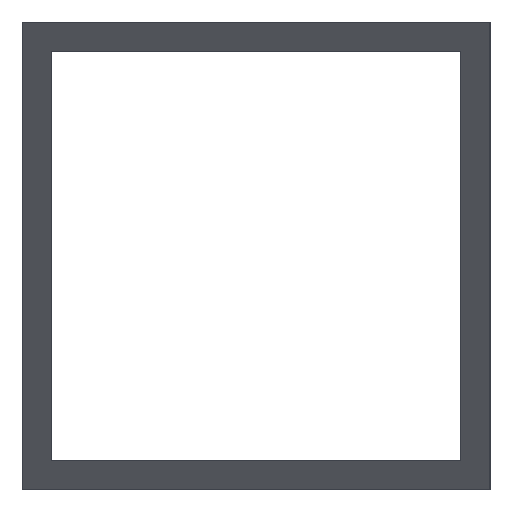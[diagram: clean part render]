
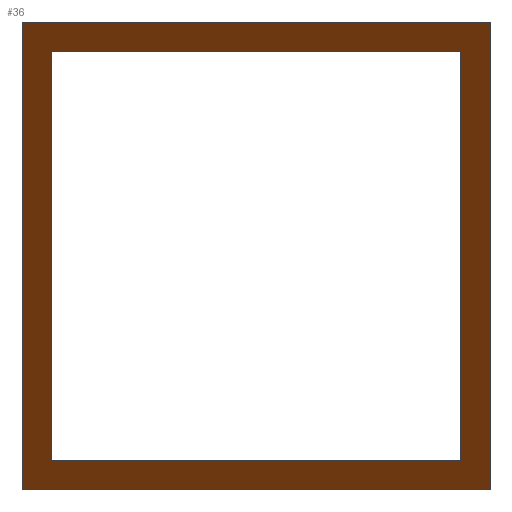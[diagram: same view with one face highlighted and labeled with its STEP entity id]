
A CAD part, left-side view. The second image highlights one B-rep face of the part: STEP entity #36.
In plain terms, the highlighted planar face has unit normal (-0.707, 0, -0.707).
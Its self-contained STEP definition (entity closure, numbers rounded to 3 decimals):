
#36=ADVANCED_FACE('',(#48,#46),#118,.T.);
#46=FACE_OUTER_BOUND('',#60,.F.);
#48=FACE_BOUND('',#59,.F.);
#59=EDGE_LOOP('',(#101,#102,#103,#104));
#60=EDGE_LOOP('',(#105,#106,#107,#108));
#101=ORIENTED_EDGE('',*,*,#130,.T.);
#102=ORIENTED_EDGE('',*,*,#129,.T.);
#103=ORIENTED_EDGE('',*,*,#128,.T.);
#104=ORIENTED_EDGE('',*,*,#127,.T.);
#105=ORIENTED_EDGE('',*,*,#134,.T.);
#106=ORIENTED_EDGE('',*,*,#133,.F.);
#107=ORIENTED_EDGE('',*,*,#131,.F.);
#108=ORIENTED_EDGE('',*,*,#132,.F.);
#118=PLANE('',#226);
#127=EDGE_CURVE('',#214,#213,#151,.T.);
#128=EDGE_CURVE('',#212,#214,#152,.T.);
#129=EDGE_CURVE('',#211,#212,#153,.T.);
#130=EDGE_CURVE('',#213,#211,#154,.T.);
#131=EDGE_CURVE('',#210,#209,#155,.T.);
#132=EDGE_CURVE('',#208,#210,#156,.T.);
#133=EDGE_CURVE('',#209,#207,#157,.T.);
#134=EDGE_CURVE('',#208,#207,#158,.T.);
#151=LINE('',#293,#175);
#152=LINE('',#294,#176);
#153=LINE('',#295,#177);
#154=LINE('',#296,#178);
#155=LINE('',#297,#179);
#156=LINE('',#298,#180);
#157=LINE('',#299,#181);
#158=LINE('',#300,#182);
#175=VECTOR('',#230,31.431);
#176=VECTOR('',#231,22.225);
#177=VECTOR('',#232,31.431);
#178=VECTOR('',#233,22.225);
#179=VECTOR('',#234,25.4);
#180=VECTOR('',#235,35.921);
#181=VECTOR('',#236,35.921);
#182=VECTOR('',#237,25.4);
#207=VERTEX_POINT('',#285);
#208=VERTEX_POINT('',#286);
#209=VERTEX_POINT('',#287);
#210=VERTEX_POINT('',#288);
#211=VERTEX_POINT('',#289);
#212=VERTEX_POINT('',#290);
#213=VERTEX_POINT('',#291);
#214=VERTEX_POINT('',#292);
#226=AXIS2_PLACEMENT_3D('',#326,#272,#273);
#230=DIRECTION('',(0.707,0.,-0.707));
#231=DIRECTION('',(0.,1.,0.));
#232=DIRECTION('',(-0.707,0.,0.707));
#233=DIRECTION('',(0.,-1.,0.));
#234=DIRECTION('',(0.,-1.,0.));
#235=DIRECTION('',(0.707,0.,-0.707));
#236=DIRECTION('',(-0.707,0.,0.707));
#237=DIRECTION('',(0.,-1.,0.));
#272=DIRECTION('',(-0.707,0.,-0.707));
#273=DIRECTION('',(0.707,0.,-0.707));
#285=CARTESIAN_POINT('',(-804.114,-2819.741,4548.445));
#286=CARTESIAN_POINT('',(-804.114,-2794.341,4548.445));
#287=CARTESIAN_POINT('',(-778.714,-2819.741,4523.045));
#288=CARTESIAN_POINT('',(-778.714,-2794.341,4523.045));
#289=CARTESIAN_POINT('',(-780.302,-2818.153,4524.633));
#290=CARTESIAN_POINT('',(-802.527,-2818.153,4546.858));
#291=CARTESIAN_POINT('',(-780.302,-2795.928,4524.633));
#292=CARTESIAN_POINT('',(-802.527,-2795.928,4546.858));
#293=CARTESIAN_POINT('',(-802.527,-2795.928,4546.858));
#294=CARTESIAN_POINT('',(-802.527,-2818.153,4546.858));
#295=CARTESIAN_POINT('',(-780.302,-2818.153,4524.633));
#296=CARTESIAN_POINT('',(-780.302,-2795.928,4524.633));
#297=CARTESIAN_POINT('',(-778.714,-2794.341,4523.045));
#298=CARTESIAN_POINT('',(-804.114,-2794.341,4548.445));
#299=CARTESIAN_POINT('',(-778.714,-2819.741,4523.045));
#300=CARTESIAN_POINT('',(-804.114,-2794.341,4548.445));
#326=CARTESIAN_POINT('',(-804.468,-2820.241,4548.799));
